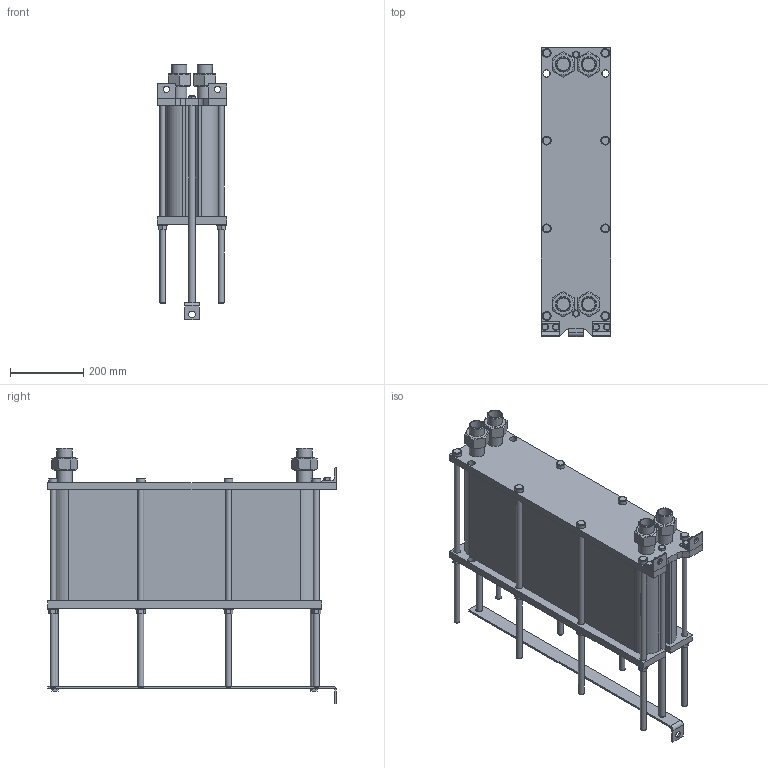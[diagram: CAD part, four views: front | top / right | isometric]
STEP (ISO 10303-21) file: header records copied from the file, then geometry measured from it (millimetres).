
FILE_DESCRIPTION(/* description */ (''),/* implementation_level */ '2;1');
FILE_NAME(/* name */ 'C:\Users\zhuro\Desktop\ENCO\TO\ЭН-008\ЭН-0,5-008-98-1.stp',/* time_stamp */ '2022-06-06T10:54:35+03:00',/* author */ ('zhuro'),/* organization */ (''),/* preprocessor_version */ 'ST-DEVELOPER v18.1',/* originating_system */ 'Autodesk Inventor 2022',/* authorisation */ '');
FILE_SCHEMA (('AUTOMOTIVE_DESIGN { 1 0 10303 214 3 1 1 }'));
Length unit declared in the file: millimetre
Products named in the file (1): ЭН-0,5-008-98-1
Bounding box: 190 x 790 x 699.4 mm (x, y, z)
Volume: 37930703 mm3; surface area: 2004607.1 mm2
Topology: 40 solids, 40 shells, 428 faces, 924 edges, 606 vertices
Faces by surface type: plane 273, cylinder 109, cone 40, torus 6
Full cylindrical faces by diameter (mm): 12 x6, 14 x2, 16 x20, 17 x8, 18 x19, 20 x5, 24 x8, 28 x8, 34.3 x8, 42.3 x8
Entity records: 15843 total; most frequent: CARTESIAN_POINT 5991, DIRECTION 1984, ORIENTED_EDGE 1848, EDGE_CURVE 924, AXIS2_PLACEMENT_3D 715, VERTEX_POINT 606, LINE 554, VECTOR 554
